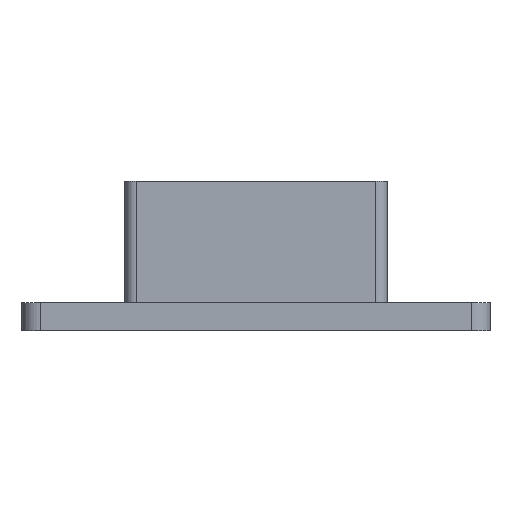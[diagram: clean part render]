
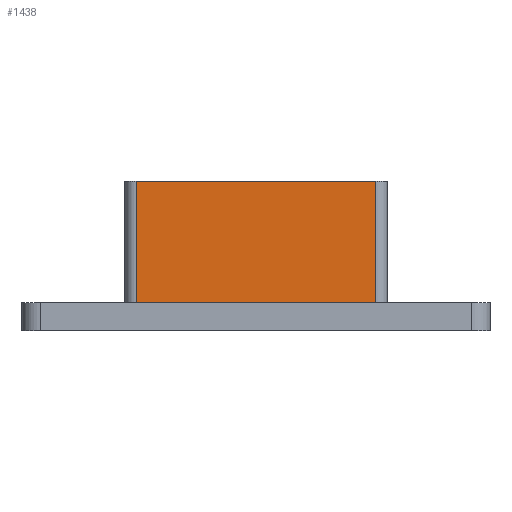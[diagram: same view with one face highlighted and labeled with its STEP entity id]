
A CAD part, front view. The second image highlights one B-rep face of the part: STEP entity #1438.
In plain terms, the highlighted planar face has unit normal (0, -1, 0).
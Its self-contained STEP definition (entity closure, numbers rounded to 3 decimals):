
#44 = PLANE('',#45);
#45 = AXIS2_PLACEMENT_3D('',#46,#47,#48);
#46 = CARTESIAN_POINT('',(-25.,-25.,3.));
#47 = DIRECTION('',(0.,0.,1.));
#48 = DIRECTION('',(1.,0.,0.));
#378 = VERTEX_POINT('',#379);
#379 = CARTESIAN_POINT('',(-12.8,-12.,3.));
#394 = CYLINDRICAL_SURFACE('',#395,1.2);
#395 = AXIS2_PLACEMENT_3D('',#396,#397,#398);
#396 = CARTESIAN_POINT('',(-12.8,-10.8,0.));
#397 = DIRECTION('',(0.,0.,1.));
#398 = DIRECTION('',(-1.,-0.,0.));
#549 = VERTEX_POINT('',#550);
#550 = CARTESIAN_POINT('',(12.8,-12.,3.));
#565 = CYLINDRICAL_SURFACE('',#566,1.2);
#566 = AXIS2_PLACEMENT_3D('',#567,#568,#569);
#567 = CARTESIAN_POINT('',(12.8,-10.8,0.));
#568 = DIRECTION('',(0.,0.,1.));
#569 = DIRECTION('',(1.,0.,-0.));
#577 = EDGE_CURVE('',#549,#378,#578,.T.);
#578 = SURFACE_CURVE('',#579,(#583,#590),.PCURVE_S1.);
#579 = LINE('',#580,#581);
#580 = CARTESIAN_POINT('',(-19.5,-12.,3.));
#581 = VECTOR('',#582,1.);
#582 = DIRECTION('',(-1.,0.,0.));
#583 = PCURVE('',#44,#584);
#584 = DEFINITIONAL_REPRESENTATION('',(#585),#589);
#585 = LINE('',#586,#587);
#586 = CARTESIAN_POINT('',(5.5,13.));
#587 = VECTOR('',#588,1.);
#588 = DIRECTION('',(-1.,0.));
#589 = ( GEOMETRIC_REPRESENTATION_CONTEXT(2) 
PARAMETRIC_REPRESENTATION_CONTEXT() REPRESENTATION_CONTEXT('2D SPACE',''
  ) );
#590 = PCURVE('',#591,#596);
#591 = PLANE('',#592);
#592 = AXIS2_PLACEMENT_3D('',#593,#594,#595);
#593 = CARTESIAN_POINT('',(-14.,-12.,0.));
#594 = DIRECTION('',(0.,1.,0.));
#595 = DIRECTION('',(0.,0.,1.));
#596 = DEFINITIONAL_REPRESENTATION('',(#597),#601);
#597 = LINE('',#598,#599);
#598 = CARTESIAN_POINT('',(3.,-5.5));
#599 = VECTOR('',#600,1.);
#600 = DIRECTION('',(0.,-1.));
#601 = ( GEOMETRIC_REPRESENTATION_CONTEXT(2) 
PARAMETRIC_REPRESENTATION_CONTEXT() REPRESENTATION_CONTEXT('2D SPACE',''
  ) );
#1340 = EDGE_CURVE('',#378,#1341,#1343,.T.);
#1341 = VERTEX_POINT('',#1342);
#1342 = CARTESIAN_POINT('',(-12.8,-12.,16.));
#1343 = SURFACE_CURVE('',#1344,(#1348,#1355),.PCURVE_S1.);
#1344 = LINE('',#1345,#1346);
#1345 = CARTESIAN_POINT('',(-12.8,-12.,0.));
#1346 = VECTOR('',#1347,1.);
#1347 = DIRECTION('',(0.,0.,1.));
#1348 = PCURVE('',#394,#1349);
#1349 = DEFINITIONAL_REPRESENTATION('',(#1350),#1354);
#1350 = LINE('',#1351,#1352);
#1351 = CARTESIAN_POINT('',(1.571,0.));
#1352 = VECTOR('',#1353,1.);
#1353 = DIRECTION('',(0.,1.));
#1354 = ( GEOMETRIC_REPRESENTATION_CONTEXT(2) 
PARAMETRIC_REPRESENTATION_CONTEXT() REPRESENTATION_CONTEXT('2D SPACE',''
  ) );
#1355 = PCURVE('',#591,#1356);
#1356 = DEFINITIONAL_REPRESENTATION('',(#1357),#1361);
#1357 = LINE('',#1358,#1359);
#1358 = CARTESIAN_POINT('',(0.,1.2));
#1359 = VECTOR('',#1360,1.);
#1360 = DIRECTION('',(1.,0.));
#1361 = ( GEOMETRIC_REPRESENTATION_CONTEXT(2) 
PARAMETRIC_REPRESENTATION_CONTEXT() REPRESENTATION_CONTEXT('2D SPACE',''
  ) );
#1378 = PLANE('',#1379);
#1379 = AXIS2_PLACEMENT_3D('',#1380,#1381,#1382);
#1380 = CARTESIAN_POINT('',(-14.,-12.,16.));
#1381 = DIRECTION('',(0.,0.,1.));
#1382 = DIRECTION('',(1.,0.,0.));
#1438 = ADVANCED_FACE('',(#1439),#591,.F.);
#1439 = FACE_BOUND('',#1440,.F.);
#1440 = EDGE_LOOP('',(#1441,#1442,#1443,#1466));
#1441 = ORIENTED_EDGE('',*,*,#577,.T.);
#1442 = ORIENTED_EDGE('',*,*,#1340,.T.);
#1443 = ORIENTED_EDGE('',*,*,#1444,.T.);
#1444 = EDGE_CURVE('',#1341,#1445,#1447,.T.);
#1445 = VERTEX_POINT('',#1446);
#1446 = CARTESIAN_POINT('',(12.8,-12.,16.));
#1447 = SURFACE_CURVE('',#1448,(#1452,#1459),.PCURVE_S1.);
#1448 = LINE('',#1449,#1450);
#1449 = CARTESIAN_POINT('',(-14.,-12.,16.));
#1450 = VECTOR('',#1451,1.);
#1451 = DIRECTION('',(1.,0.,0.));
#1452 = PCURVE('',#591,#1453);
#1453 = DEFINITIONAL_REPRESENTATION('',(#1454),#1458);
#1454 = LINE('',#1455,#1456);
#1455 = CARTESIAN_POINT('',(16.,0.));
#1456 = VECTOR('',#1457,1.);
#1457 = DIRECTION('',(0.,1.));
#1458 = ( GEOMETRIC_REPRESENTATION_CONTEXT(2) 
PARAMETRIC_REPRESENTATION_CONTEXT() REPRESENTATION_CONTEXT('2D SPACE',''
  ) );
#1459 = PCURVE('',#1378,#1460);
#1460 = DEFINITIONAL_REPRESENTATION('',(#1461),#1465);
#1461 = LINE('',#1462,#1463);
#1462 = CARTESIAN_POINT('',(0.,0.));
#1463 = VECTOR('',#1464,1.);
#1464 = DIRECTION('',(1.,0.));
#1465 = ( GEOMETRIC_REPRESENTATION_CONTEXT(2) 
PARAMETRIC_REPRESENTATION_CONTEXT() REPRESENTATION_CONTEXT('2D SPACE',''
  ) );
#1466 = ORIENTED_EDGE('',*,*,#1467,.F.);
#1467 = EDGE_CURVE('',#549,#1445,#1468,.T.);
#1468 = SURFACE_CURVE('',#1469,(#1473,#1480),.PCURVE_S1.);
#1469 = LINE('',#1470,#1471);
#1470 = CARTESIAN_POINT('',(12.8,-12.,0.));
#1471 = VECTOR('',#1472,1.);
#1472 = DIRECTION('',(0.,0.,1.));
#1473 = PCURVE('',#591,#1474);
#1474 = DEFINITIONAL_REPRESENTATION('',(#1475),#1479);
#1475 = LINE('',#1476,#1477);
#1476 = CARTESIAN_POINT('',(0.,26.8));
#1477 = VECTOR('',#1478,1.);
#1478 = DIRECTION('',(1.,0.));
#1479 = ( GEOMETRIC_REPRESENTATION_CONTEXT(2) 
PARAMETRIC_REPRESENTATION_CONTEXT() REPRESENTATION_CONTEXT('2D SPACE',''
  ) );
#1480 = PCURVE('',#565,#1481);
#1481 = DEFINITIONAL_REPRESENTATION('',(#1482),#1486);
#1482 = LINE('',#1483,#1484);
#1483 = CARTESIAN_POINT('',(-1.571,0.));
#1484 = VECTOR('',#1485,1.);
#1485 = DIRECTION('',(-0.,1.));
#1486 = ( GEOMETRIC_REPRESENTATION_CONTEXT(2) 
PARAMETRIC_REPRESENTATION_CONTEXT() REPRESENTATION_CONTEXT('2D SPACE',''
  ) );
